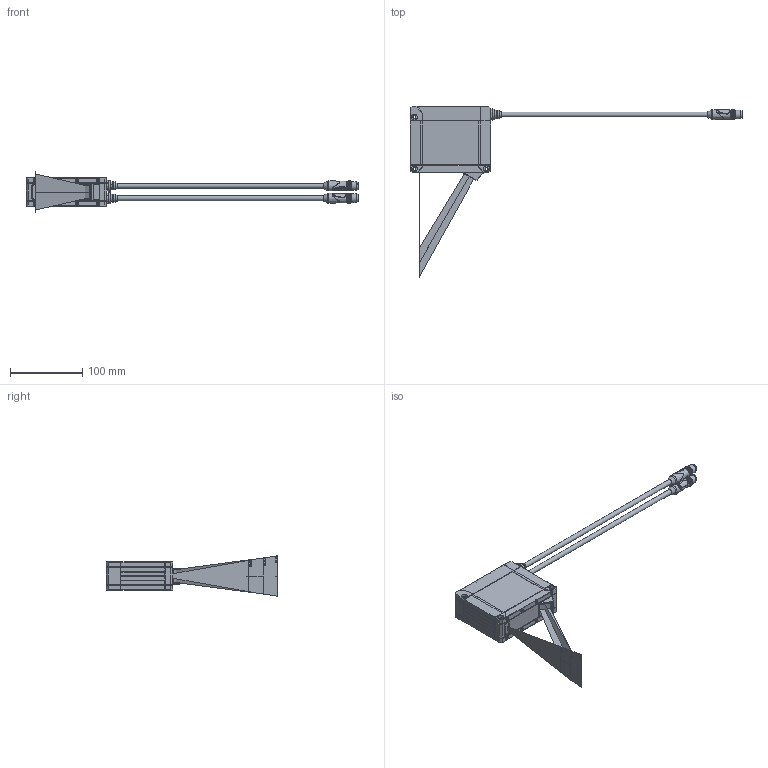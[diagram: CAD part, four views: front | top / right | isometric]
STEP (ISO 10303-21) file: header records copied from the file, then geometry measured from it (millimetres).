
FILE_DESCRIPTION (( 'STEP AP214' ), '1' );
FILE_NAME ('LLT30xx-50-RT.STEP', '2026-07-22T08:19:57', ( '' ), ( '' ), 'SwSTEP 2.0', 'SolidWorks 2024', '' );
FILE_SCHEMA (( 'AUTOMOTIVE_DESIGN' ));
Length unit declared in the file: millimetre
Products named in the file (1): LLT30xx-50-RT
Bounding box: 459.4 x 237 x 55.9 mm (x, y, z)
Volume: 433660.5 mm3; surface area: 87949 mm2
Topology: 3 solids, 18 shells, 3920 faces, 8821 edges, 5040 vertices
Faces by surface type: plane 2145, cone 948, cylinder 506, bspline 290, torus 28, sphere 3
Full cylindrical faces by diameter (mm): 0.6 x8, 0.7 x12, 2.4 x3, 2.8 x3, 3 x3, 3.8 x16, 4.2 x3, 4.4 x16, 6.8 x4, 8 x4, 8.35 x2, 8.4 x4, 9.2 x2, 9.4 x2, 9.5 x2, 10.268 x2, 10.5 x2, 10.7 x2, 10.75 x2, 10.8 x2, 11.2 x2, 12 x2, 13 x2, 13.5 x2, 15 x2
Entity records: 163250 total; most frequent: CARTESIAN_POINT 40677, ORIENTED_EDGE 17058, DIRECTION 14853, EDGE_CURVE 8529, AXIS2_PLACEMENT_3D 5588, VERTEX_POINT 4972, EDGE_LOOP 4275, FACE_OUTER_BOUND 4058
